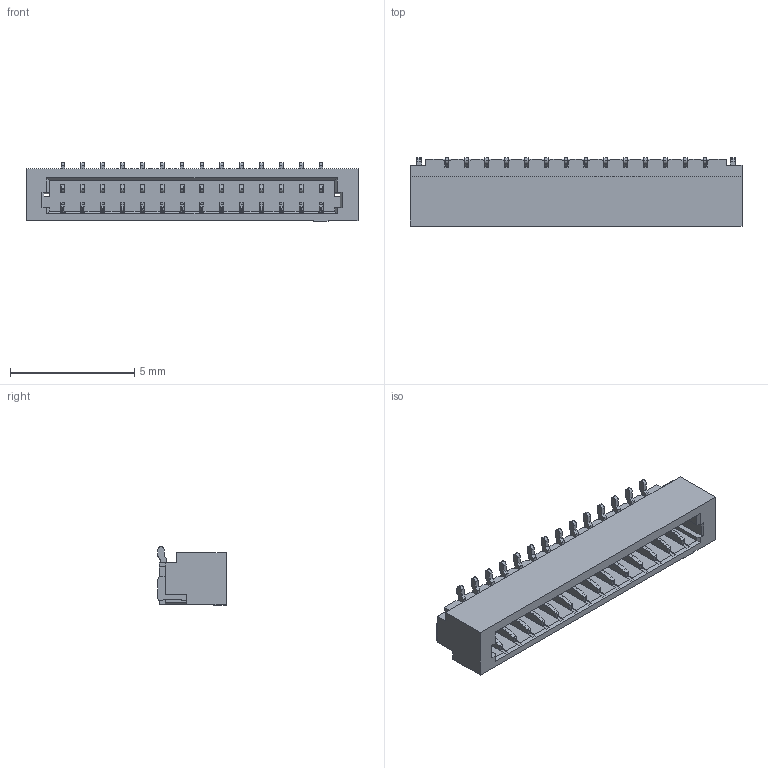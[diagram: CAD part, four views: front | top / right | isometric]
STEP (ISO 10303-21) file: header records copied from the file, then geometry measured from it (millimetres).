
FILE_DESCRIPTION((''),'2;1');
FILE_NAME('SCT0800WVS-14','2023-04-10T16:44:20',('Administrator'),(''),'CREO PARAMETRIC BY PTC INC, 2018050','CREO PARAMETRIC BY PTC INC, 2018050','');
FILE_SCHEMA(('CONFIG_CONTROL_DESIGN'));
Length unit declared in the file: millimetre
Products named in the file (1): SCT0800WVS-14
Bounding box: 13.38 x 2.75 x 2.37 mm (x, y, z)
Volume: 46 mm3; surface area: 279.5 mm2
Topology: 1 solids, 2 shells, 1079 faces, 3408 edges, 2256 vertices
Faces by surface type: plane 679, cylinder 400
Entity records: 37966 total; most frequent: CARTESIAN_POINT 6943, ORIENTED_EDGE 6816, DIRECTION 6250, EDGE_CURVE 3408, VECTOR 2604, LINE 2604, VERTEX_POINT 2256, AXIS2_PLACEMENT_3D 1823
